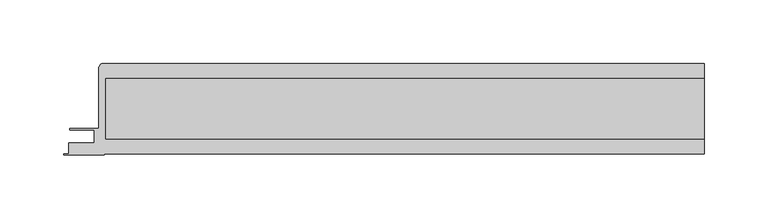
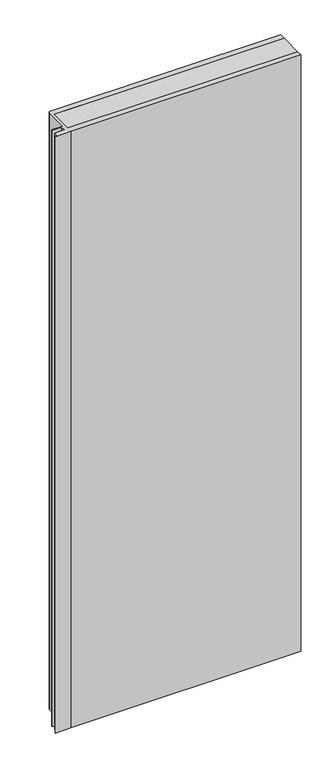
"""IFC4 building model written with IfcOpenShell, lengths in millimetres: plate geometry, Walls_External-Walls_Danpal_Danpatherm-K7-with-AIRPT-Frame : Walls_External-Walls_Danpal_Danpatherm-K7-with-AIRPT-Frame."""

from ifc_helpers import new_model, si_unit, point, frame, frame_2d, origin, place, context, project, spatial, polyline, circle_curve, trimmed, segment, composite_curve, outline, extrude, source, transform, mapped, element, save


def plate_76393524(model_context):
    return source(origin(), model_context, "Body", "SweptSolid", [
        extrude(outline(polyline([(-232.7129481, 60.3432727), (238.309327, 60.3432727), (238.309327, 12.7999917), (-232.7129481, 12.7999917), (-232.7129481, 60.3432727)])), frame((0.0, 0.0, -22.0), z_axis=(0.0, 0.0, 1.0), x_axis=(1.0, 0.0, 0.0)), (0.0, 0.0, 1.0), 1294.159327),
        extrude(outline(composite_curve([segment(polyline([(-234.4664181, 72.343285), (238.309327, 72.343285), (238.309327, 60.3432727), (-232.7129481, 60.3432727), (-232.7129481, 12.7999917), (238.309327, 12.7999917), (238.309327, 0.8), (-234.0523184, 0.8), (-234.0523184, 0.0), (-265.9523184, 0.0), (-265.9523184, 0.8), (-261.7523184, 0.8), (-261.7523184, 9.7656785), (-241.9225586, 9.7656785), (-241.9225586, 19.6715177), (-260.8787043, 19.6715177), (-260.8787043, 20.9715623), (-238.309327, 20.9715623), (-238.309327, 68.5003761)]), True, "CONTINUOUS"), segment(trimmed(circle_curve(frame_2d((-234.4664181, 68.5003761)), 3.8429089), [point((-238.309327, 68.5003761))], [point((-234.4664181, 72.343285))], False, "CARTESIAN"), True, "CONTINUOUS")], self_intersect=False)), frame((0.0, 0.0, -22.0), z_axis=(0.0, 0.0, 1.0), x_axis=(1.0, 0.0, 0.0)), (0.0, 0.0, 1.0), 1294.159327),
    ])


if __name__ == "__main__":
    model = new_model("IFC4")
    model_context = context("Model", 3, world=origin())
    ifc_project = project(units=[si_unit("LENGTHUNIT", "METRE", prefix="MILLI")], contexts=[model_context])
    site = spatial("IfcSite", under=ifc_project)
    building = spatial("IfcBuilding", under=site)
    placement = place(None, origin())
    plate_shape = plate_76393524(model_context)
    element("IfcPlate", 1, ObjectType="Walls_External-Walls_Danpal_Danpatherm-K7-with-AIRPT-Frame : Walls_External-Walls_Danpal_Danpatherm-K7-with-AIRPT-Frame", at=placement, inside=building, context=model_context, shape_type="MappedRepresentation", body=[
        mapped(plate_shape, transform((0.0, 0.0, 0.0), x_axis=(1.0, 0.0, 0.0), y_axis=(0.0, 1.0, 0.0), z_axis=(0.0, 0.0, 1.0))),
    ])
    save(model, "model.ifc")
